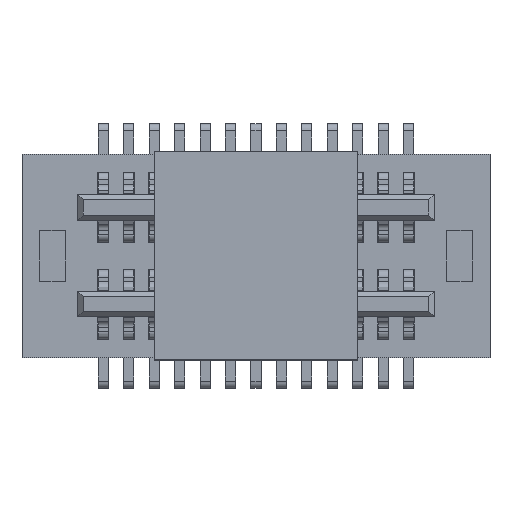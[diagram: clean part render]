
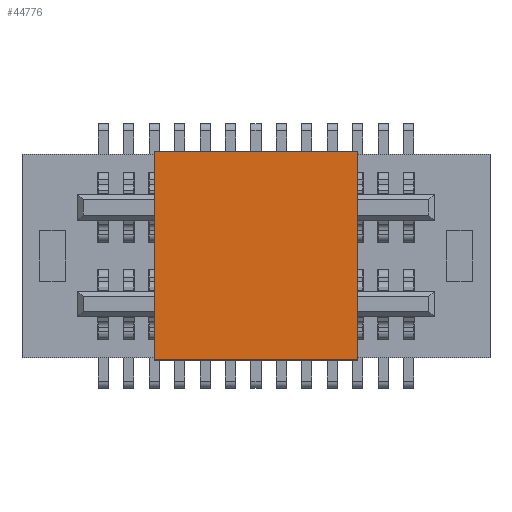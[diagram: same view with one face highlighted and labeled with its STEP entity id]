
A CAD part, top view. The second image highlights one B-rep face of the part: STEP entity #44776.
In plain terms, the highlighted planar face has unit normal (0, 0, 1).
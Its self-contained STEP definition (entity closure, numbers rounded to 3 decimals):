
#44724=CARTESIAN_POINT('Vertex',(-2.,2.05,3.35)) ;
#44727=CARTESIAN_POINT('Line Origine',(0.,2.05,3.35)) ;
#44731=CARTESIAN_POINT('Vertex',(2.,2.05,3.35)) ;
#44746=CARTESIAN_POINT('Axis2P3D Location',(0.,-2.05,3.35)) ;
#44751=CARTESIAN_POINT('Line Origine',(-2.,0.,3.35)) ;
#44755=CARTESIAN_POINT('Vertex',(-2.,-2.05,3.35)) ;
#44758=CARTESIAN_POINT('Line Origine',(0.,-2.05,3.35)) ;
#44762=CARTESIAN_POINT('Vertex',(2.,-2.05,3.35)) ;
#44765=CARTESIAN_POINT('Line Origine',(2.,0.,3.35)) ;
#44728=DIRECTION('Vector Direction',(1.,0.,0.)) ;
#44747=DIRECTION('Axis2P3D Direction',(0.,0.,-1.)) ;
#44748=DIRECTION('Axis2P3D XDirection',(0.,1.,0.)) ;
#44752=DIRECTION('Vector Direction',(0.,1.,0.)) ;
#44759=DIRECTION('Vector Direction',(1.,0.,0.)) ;
#44766=DIRECTION('Vector Direction',(0.,1.,0.)) ;
#44749=AXIS2_PLACEMENT_3D('Plane Axis2P3D',#44746,#44747,#44748) ;
#44771=ORIENTED_EDGE('',*,*,#44733,.F.) ;
#44772=ORIENTED_EDGE('',*,*,#44757,.T.) ;
#44773=ORIENTED_EDGE('',*,*,#44764,.T.) ;
#44774=ORIENTED_EDGE('',*,*,#44769,.F.) ;
#44729=VECTOR('Line Direction',#44728,1.) ;
#44753=VECTOR('Line Direction',#44752,1.) ;
#44760=VECTOR('Line Direction',#44759,1.) ;
#44767=VECTOR('Line Direction',#44766,1.) ;
#44776=ADVANCED_FACE('\X2\76D65B50\X0\',(#44775),#44750,.F.) ;
#44733=EDGE_CURVE('',#44725,#44732,#44730,.T.) ;
#44757=EDGE_CURVE('',#44725,#44756,#44754,.F.) ;
#44764=EDGE_CURVE('',#44756,#44763,#44761,.T.) ;
#44769=EDGE_CURVE('',#44732,#44763,#44768,.F.) ;
#44770=EDGE_LOOP('',(#44771,#44772,#44773,#44774)) ;
#44775=FACE_OUTER_BOUND('',#44770,.T.) ;
#44730=LINE('Line',#44727,#44729) ;
#44754=LINE('Line',#44751,#44753) ;
#44761=LINE('Line',#44758,#44760) ;
#44768=LINE('Line',#44765,#44767) ;
#44750=PLANE('Plane',#44749) ;
#44725=VERTEX_POINT('',#44724) ;
#44732=VERTEX_POINT('',#44731) ;
#44756=VERTEX_POINT('',#44755) ;
#44763=VERTEX_POINT('',#44762) ;
